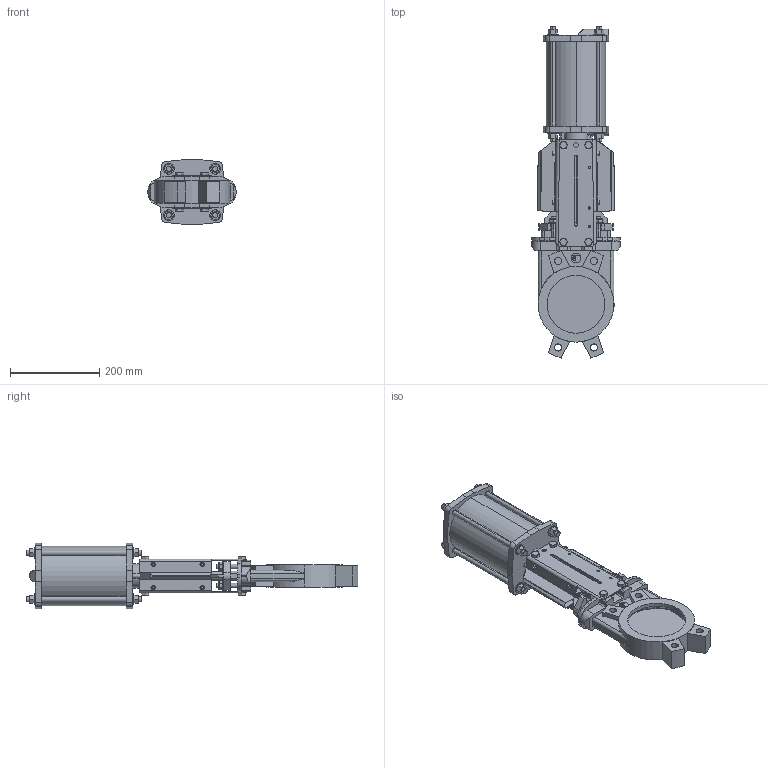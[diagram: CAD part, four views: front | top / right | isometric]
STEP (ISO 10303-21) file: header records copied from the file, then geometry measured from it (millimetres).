
FILE_DESCRIPTION (( 'STEP AP203' ), '1' );
FILE_NAME ('VG P DN125.STEP', '2010-01-27T07:50:51', ( 'farex' ), ( '' ), 'SwSTEP 2.0', 'SolidWorks 2009', '' );
FILE_SCHEMA (( 'CONFIG_CONTROL_DESIGN' ));
Length unit declared in the file: millimetre
Products named in the file (1): VG P DN125
Bounding box: 198 x 745.03 x 146.5 mm (x, y, z)
Volume: 2810745.2 mm3; surface area: 714075 mm2
Topology: 5 solids, 25 shells, 1100 faces, 2782 edges, 1816 vertices
Faces by surface type: plane 643, cylinder 344, cone 77, bspline 24, torus 12
Entity records: 34883 total; most frequent: CARTESIAN_POINT 8054, ORIENTED_EDGE 5564, DIRECTION 5477, EDGE_CURVE 2782, AXIS2_PLACEMENT_3D 1859, VERTEX_POINT 1816, LINE 1759, VECTOR 1759
